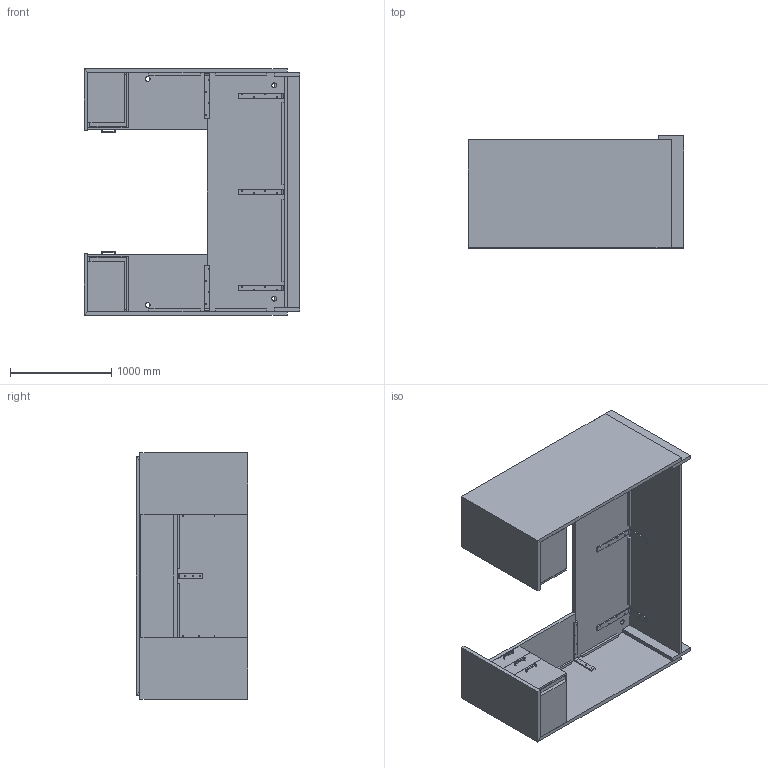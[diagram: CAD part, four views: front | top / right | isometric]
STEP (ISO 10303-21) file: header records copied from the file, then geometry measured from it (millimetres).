
FILE_DESCRIPTION(/* description */ ('','CAx-IF Rec.Pracs.---Representation and Presentation of Product Manufacturing Information (PMI)---4.0---2014-10-13'),/* implementation_level */ '2;1');
FILE_NAME(/* name */ 'WORKSTATION_FOUNDATION 1.stp',/* time_stamp */ '2024-12-08T10:30:16-05:00',/* author */ ('mbowman'),/* organization */ (''),/* preprocessor_version */ 'ST-DEVELOPER v19.2',/* originating_system */ 'Autodesk Inventor 2023',/* authorisation */ '');
FILE_SCHEMA (('AP242_MANAGED_MODEL_BASED_3D_ENGINEERING_MIM_LF { 1 0 10303 442 1 1 4 }'));
Length unit declared in the file: inch
Products named in the file (16): FOUNDATION^OPEN OFFICE 1_FIXED TOP-SOLID ASSEMBLY; FOUNDATION^OPEN OFFICE 1_43.5x93 FRONT TRANSACTION-PARTS SOLID; FOUNDATION^OPEN OFFICE 1_42x79x24 RIGHT GALLERY WALL-PARTS SOLID; FOUNDATION^OPEN OFFICE 1_42x79x24 LEFT GALLERY WALL-PARTS SOLID; FOUNDATION^WORKSURFACES_LIFT TOP-93x30; FOUNDATION^PEDESTAL_LETTER BBF 22D-SOLID ASSEMBLY; FOUNDATION^PEDESTAL_LETTER BBF 22D-PARTS SOLID; FOUNDATION^PEDESTAL_LETTER FF 22D-SOLID ASSEMBLY; FOUNDATION^PEDESTAL_LETTER FF 22D-PARTS SOLID; SCHWINN 22334 PULL; FOUNDATION^PEDESTAL_PLINTH-14.25x21.5; FOUNDATION^WORKSURFACES_FIXED RETURN TOP-42x22; CANTILEVER BRACKET-10x18; FOUNDATION^WORKSURFACES_1x1 BLOCKING-32; FOUNDATION^WORKSURFACES_1x1 BLOCKING-20; FOUNDATION^OPEN OFFICE 1_12.94x89.94-TACKBOARD
Assembly tree (29 placements, depth 3):
  FOUNDATION^OPEN OFFICE 1_FIXED TOP-SOLID ASSEMBLY
    FOUNDATION^OPEN OFFICE 1_43.5x93 FRONT TRANSACTION-PARTS SOLID
    FOUNDATION^OPEN OFFICE 1_42x79x24 RIGHT GALLERY WALL-PARTS SOLID
    FOUNDATION^OPEN OFFICE 1_42x79x24 LEFT GALLERY WALL-PARTS SOLID
    FOUNDATION^WORKSURFACES_LIFT TOP-93x30
    FOUNDATION^PEDESTAL_LETTER BBF 22D-SOLID ASSEMBLY
      FOUNDATION^PEDESTAL_LETTER BBF 22D-PARTS SOLID
      SCHWINN 22334 PULL  x3
    FOUNDATION^PEDESTAL_LETTER FF 22D-SOLID ASSEMBLY
      FOUNDATION^PEDESTAL_LETTER FF 22D-PARTS SOLID
      SCHWINN 22334 PULL  x2
    FOUNDATION^PEDESTAL_PLINTH-14.25x21.5  x2
    FOUNDATION^WORKSURFACES_FIXED RETURN TOP-42x22  x2
    CANTILEVER BRACKET-10x18  x5
    FOUNDATION^WORKSURFACES_1x1 BLOCKING-32  x2
    FOUNDATION^WORKSURFACES_1x1 BLOCKING-20  x4
    FOUNDATION^OPEN OFFICE 1_12.94x89.94-TACKBOARD
Bounding box: 2133.6 x 1104.9 x 2438.4 mm (x, y, z)
Volume: 526431048 mm3; surface area: 36216649.7 mm2
Topology: 45 solids, 45 shells, 421 faces, 963 edges, 632 vertices
Faces by surface type: plane 312, cylinder 79, cone 30
Full cylindrical faces by diameter (mm): 3.683 x10, 6.35 x20, 7.938 x15, 48.26 x4
Entity records: 8289 total; most frequent: CARTESIAN_POINT 1598, DIRECTION 1208, ORIENTED_EDGE 980, EDGE_CURVE 490, LINE 450, VECTOR 450, AXIS2_PLACEMENT_3D 379, VERTEX_POINT 326
